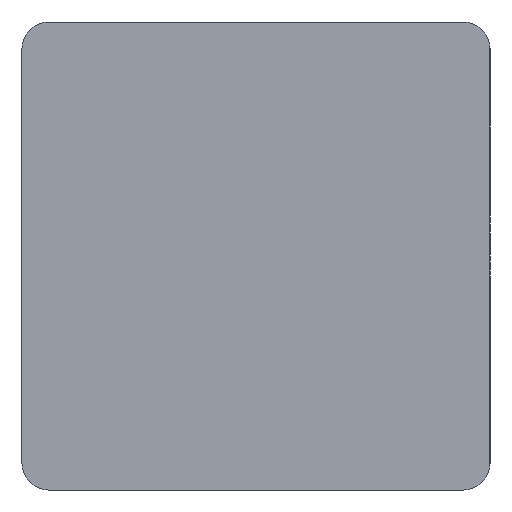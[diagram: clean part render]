
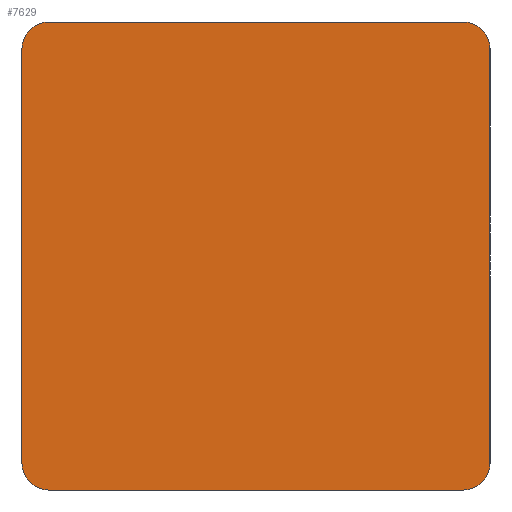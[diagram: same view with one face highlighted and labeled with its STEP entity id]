
A CAD part, left-side view. The second image highlights one B-rep face of the part: STEP entity #7629.
In plain terms, the highlighted planar face has unit normal (-1, 0, 0).
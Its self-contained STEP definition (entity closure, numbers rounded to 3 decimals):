
#767=PLANE('',#8123);
#1146=FACE_OUTER_BOUND('',#1632,.T.);
#1632=EDGE_LOOP('',(#6735,#6736,#6737,#6738,#6739,#6740,#6741,#6742));
#2277=LINE('',#12804,#2917);
#2282=LINE('',#12817,#2922);
#2286=LINE('',#12828,#2926);
#2287=LINE('',#12830,#2927);
#2917=VECTOR('',#9384,10.);
#2922=VECTOR('',#9399,10.);
#2926=VECTOR('',#9413,10.);
#2927=VECTOR('',#9414,10.);
#3119=CIRCLE('',#8117,12.5);
#3120=CIRCLE('',#8120,12.5);
#3121=CIRCLE('',#8122,12.5);
#3122=CIRCLE('',#8124,12.5);
#3768=VERTEX_POINT('',#12801);
#3769=VERTEX_POINT('',#12803);
#3770=VERTEX_POINT('',#12810);
#3771=VERTEX_POINT('',#12811);
#3772=VERTEX_POINT('',#12816);
#3773=VERTEX_POINT('',#12822);
#3774=VERTEX_POINT('',#12824);
#3775=VERTEX_POINT('',#12829);
#4775=EDGE_CURVE('',#3768,#3769,#2277,.T.);
#4778=EDGE_CURVE('',#3770,#3771,#3119,.T.);
#4781=EDGE_CURVE('',#3771,#3772,#2282,.T.);
#4783=EDGE_CURVE('',#3772,#3768,#3120,.T.);
#4785=EDGE_CURVE('',#3773,#3774,#3121,.T.);
#4787=EDGE_CURVE('',#3770,#3774,#2286,.T.);
#4788=EDGE_CURVE('',#3775,#3773,#2287,.T.);
#4789=EDGE_CURVE('',#3769,#3775,#3122,.T.);
#6735=ORIENTED_EDGE('',*,*,#4778,.F.);
#6736=ORIENTED_EDGE('',*,*,#4787,.T.);
#6737=ORIENTED_EDGE('',*,*,#4785,.F.);
#6738=ORIENTED_EDGE('',*,*,#4788,.F.);
#6739=ORIENTED_EDGE('',*,*,#4789,.F.);
#6740=ORIENTED_EDGE('',*,*,#4775,.F.);
#6741=ORIENTED_EDGE('',*,*,#4783,.F.);
#6742=ORIENTED_EDGE('',*,*,#4781,.F.);
#7629=ADVANCED_FACE('',(#1146),#767,.T.);
#8117=AXIS2_PLACEMENT_3D('',#12812,#9393,#9394);
#8120=AXIS2_PLACEMENT_3D('',#12820,#9403,#9404);
#8122=AXIS2_PLACEMENT_3D('',#12825,#9408,#9409);
#8123=AXIS2_PLACEMENT_3D('',#12827,#9411,#9412);
#8124=AXIS2_PLACEMENT_3D('',#12831,#9415,#9416);
#9384=DIRECTION('',(0.,0.,1.));
#9393=DIRECTION('center_axis',(1.,0.,0.));
#9394=DIRECTION('ref_axis',(0.,-0.707,-0.707));
#9399=DIRECTION('',(0.,1.,0.));
#9403=DIRECTION('center_axis',(1.,0.,0.));
#9404=DIRECTION('ref_axis',(0.,0.707,-0.707));
#9408=DIRECTION('center_axis',(1.,0.,0.));
#9409=DIRECTION('ref_axis',(0.,-0.707,0.707));
#9411=DIRECTION('center_axis',(-1.,0.,0.));
#9412=DIRECTION('ref_axis',(0.,-1.,0.));
#9413=DIRECTION('',(0.,0.,1.));
#9414=DIRECTION('',(0.,-1.,0.));
#9415=DIRECTION('center_axis',(1.,0.,0.));
#9416=DIRECTION('ref_axis',(0.,0.707,0.707));
#12801=CARTESIAN_POINT('',(-45.,220.,-102.5));
#12803=CARTESIAN_POINT('',(-45.,220.,92.5));
#12804=CARTESIAN_POINT('',(-45.,220.,5.));
#12810=CARTESIAN_POINT('',(-45.,0.,-102.5));
#12811=CARTESIAN_POINT('',(-45.,12.5,-115.));
#12812=CARTESIAN_POINT('Origin',(-45.,12.5,-102.5));
#12816=CARTESIAN_POINT('',(-45.,207.5,-115.));
#12817=CARTESIAN_POINT('',(-45.,0.,-115.));
#12820=CARTESIAN_POINT('Origin',(-45.,207.5,-102.5));
#12822=CARTESIAN_POINT('',(-45.,12.5,105.));
#12824=CARTESIAN_POINT('',(-45.,0.,92.5));
#12825=CARTESIAN_POINT('Origin',(-45.,12.5,92.5));
#12827=CARTESIAN_POINT('Origin',(-45.,220.,5.));
#12828=CARTESIAN_POINT('',(-45.,0.,5.));
#12829=CARTESIAN_POINT('',(-45.,207.5,105.));
#12830=CARTESIAN_POINT('',(-45.,0.,105.));
#12831=CARTESIAN_POINT('Origin',(-45.,207.5,92.5));
